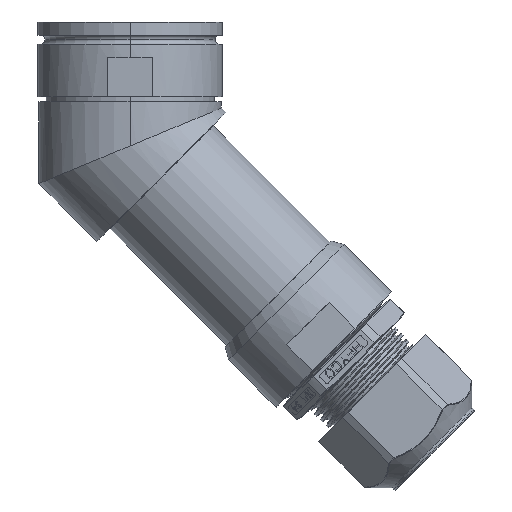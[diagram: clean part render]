
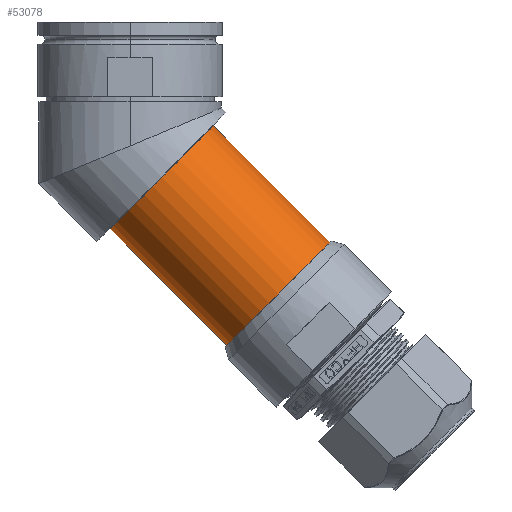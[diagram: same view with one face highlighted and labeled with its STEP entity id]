
A CAD part, left-side view. The second image highlights one B-rep face of the part: STEP entity #53078.
In plain terms, the highlighted cylindrical face has radius 17.691 mm (diameter 35.382 mm), a partial arc.
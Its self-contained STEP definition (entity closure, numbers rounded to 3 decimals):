
#1330 = CARTESIAN_POINT ( 'NONE',  ( 0., -35.99, -60.42 ) ) ;
#2574 = ORIENTED_EDGE ( 'NONE', *, *, #8110, .F. ) ;
#7117 = CARTESIAN_POINT ( 'NONE',  ( 0., -20.175, -19.586 ) ) ;
#8110 = EDGE_CURVE ( 'NONE', #10008, #15217, #18036, .T. ) ;
#8148 = CARTESIAN_POINT ( 'NONE',  ( 0., 4.844, -44.605 ) ) ;
#8780 = CARTESIAN_POINT ( 'NONE',  ( 0., -20.175, -19.586 ) ) ;
#10008 = VERTEX_POINT ( 'NONE', #24098 ) ;
#15217 = VERTEX_POINT ( 'NONE', #63477 ) ;
#15301 = AXIS2_PLACEMENT_3D ( 'NONE', #51188, #56148, #16216 ) ;
#16216 = DIRECTION ( 'NONE',  ( 0., -0.707, 0.707 ) ) ;
#17114 = CYLINDRICAL_SURFACE ( 'NONE', #56666, 17.691 ) ;
#18036 = LINE ( 'NONE', #8148, #51397 ) ;
#24098 = CARTESIAN_POINT ( 'NONE',  ( 0., -23.48, -72.929 ) ) ;
#24344 = VERTEX_POINT ( 'NONE', #41239 ) ;
#24708 = EDGE_LOOP ( 'NONE', ( #2574, #45977, #50421, #60147 ) ) ;
#26777 = DIRECTION ( 'NONE',  ( 0., -0.707, -0.707 ) ) ;
#28282 = DIRECTION ( 'NONE',  ( 0., 0.707, 0.707 ) ) ;
#29238 = EDGE_CURVE ( 'NONE', #24344, #10008, #36643, .T. ) ;
#31982 = DIRECTION ( 'NONE',  ( 0., 0.707, 0.707 ) ) ;
#32272 = VERTEX_POINT ( 'NONE', #8780 ) ;
#36643 = CIRCLE ( 'NONE', #57690, 17.691 ) ;
#37254 = CARTESIAN_POINT ( 'NONE',  ( 0., -7.666, -32.096 ) ) ;
#37480 = LINE ( 'NONE', #7117, #41880 ) ;
#37583 = DIRECTION ( 'NONE',  ( 0., -0.707, 0.707 ) ) ;
#41239 = CARTESIAN_POINT ( 'NONE',  ( 0., -48.499, -47.91 ) ) ;
#41880 = VECTOR ( 'NONE', #57605, 1000. ) ;
#45977 = ORIENTED_EDGE ( 'NONE', *, *, #29238, .F. ) ;
#46088 = EDGE_CURVE ( 'NONE', #15217, #32272, #63813, .T. ) ;
#50421 = ORIENTED_EDGE ( 'NONE', *, *, #51592, .T. ) ;
#51188 = CARTESIAN_POINT ( 'NONE',  ( 0., -7.666, -32.096 ) ) ;
#51397 = VECTOR ( 'NONE', #28282, 1000. ) ;
#51592 = EDGE_CURVE ( 'NONE', #24344, #32272, #37480, .T. ) ;
#53078 = ADVANCED_FACE ( 'NONE', ( #62682 ), #17114, .T. ) ;
#56125 = DIRECTION ( 'NONE',  ( 0., 0.707, -0.707 ) ) ;
#56148 = DIRECTION ( 'NONE',  ( 0., 0.707, 0.707 ) ) ;
#56666 = AXIS2_PLACEMENT_3D ( 'NONE', #37254, #31982, #37583 ) ;
#57605 = DIRECTION ( 'NONE',  ( 0., 0.707, 0.707 ) ) ;
#57690 = AXIS2_PLACEMENT_3D ( 'NONE', #1330, #26777, #56125 ) ;
#60147 = ORIENTED_EDGE ( 'NONE', *, *, #46088, .F. ) ;
#62682 = FACE_OUTER_BOUND ( 'NONE', #24708, .T. ) ;
#63477 = CARTESIAN_POINT ( 'NONE',  ( 0., 4.844, -44.605 ) ) ;
#63813 = CIRCLE ( 'NONE', #15301, 17.691 ) ;
